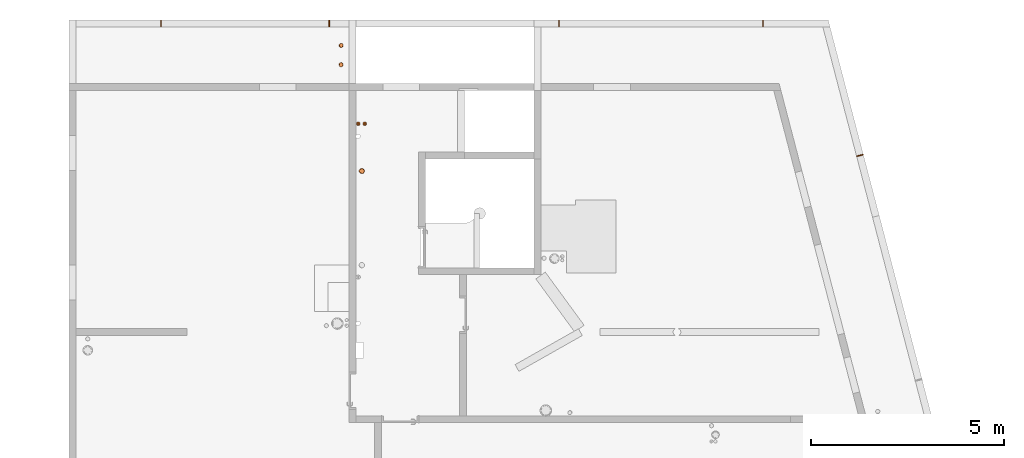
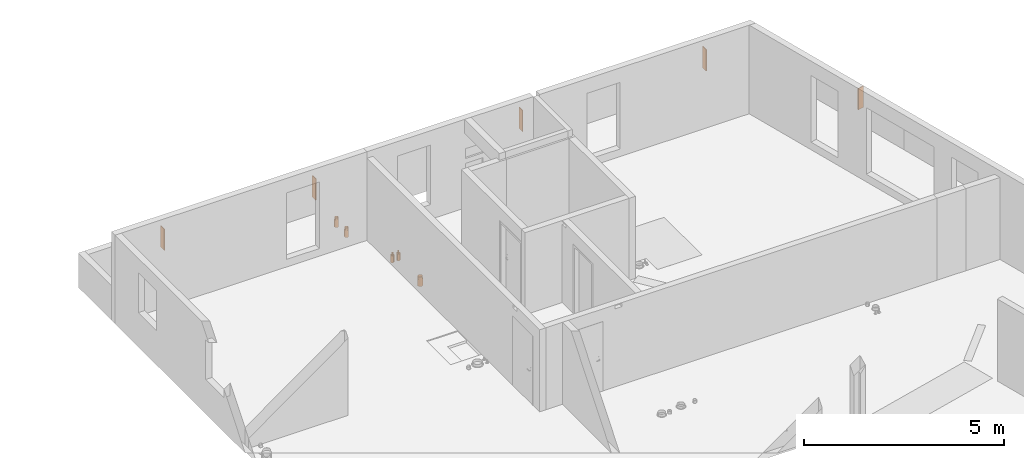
# One storey, part 28 of 28: 10 proxies.
"""IFC2X3 building model written with IfcOpenShell, lengths in centimetres."""

from ifc_helpers import new_model, entity, si_unit, converted_unit, derived_unit, direction, frame, frame_2d, origin, place, context, subcontext, project, spatial, rectangle, circle, hollow_circle, extrude, source, transform, mapped, material, type_object, type_shapes, element, save


model = new_model("IFC2X3")

# Units and contexts
model_context = context("Model", 3, precision=0.001, world=origin(), true_north=direction((6.12303176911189e-17, 1.0)))
body_context = subcontext(model_context, "Body", "Model", "MODEL_VIEW")
ifc_project = project(units=[si_unit("LENGTHUNIT", "METRE", prefix="CENTI"), si_unit("AREAUNIT", "SQUARE_METRE"), si_unit("VOLUMEUNIT", "CUBIC_METRE"), converted_unit("PLANEANGLEUNIT", "DEGREE", entity("IfcRatioMeasure", 0.0174532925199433), si_unit("PLANEANGLEUNIT", "RADIAN"), dimensions=[0, 0, 0, 0, 0, 0, 0]), si_unit("MASSUNIT", "GRAM", prefix="KILO"), derived_unit("MASSDENSITYUNIT", [(si_unit("MASSUNIT", "GRAM", prefix="KILO"), 1), (si_unit("LENGTHUNIT", "METRE"), -3)]), si_unit("TIMEUNIT", "SECOND"), si_unit("FREQUENCYUNIT", "HERTZ"), si_unit("THERMODYNAMICTEMPERATUREUNIT", "DEGREE_CELSIUS"), derived_unit("THERMALTRANSMITTANCEUNIT", [(si_unit("MASSUNIT", "GRAM", prefix="KILO"), 1), (si_unit("THERMODYNAMICTEMPERATUREUNIT", "KELVIN"), -1), (si_unit("TIMEUNIT", "SECOND"), -3)]), derived_unit("VOLUMETRICFLOWRATEUNIT", [(si_unit("LENGTHUNIT", "METRE"), 3), (si_unit("TIMEUNIT", "SECOND"), -1)]), si_unit("ELECTRICCURRENTUNIT", "AMPERE"), si_unit("ELECTRICVOLTAGEUNIT", "VOLT"), si_unit("POWERUNIT", "WATT"), si_unit("FORCEUNIT", "NEWTON"), si_unit("ILLUMINANCEUNIT", "LUX"), si_unit("LUMINOUSFLUXUNIT", "LUMEN"), si_unit("LUMINOUSINTENSITYUNIT", "CANDELA"), derived_unit("USERDEFINED", [(si_unit("MASSUNIT", "GRAM", prefix="KILO"), -1), (si_unit("LENGTHUNIT", "METRE"), -2), (si_unit("TIMEUNIT", "SECOND"), 3), (si_unit("LUMINOUSFLUXUNIT", "LUMEN"), 1)]), derived_unit("LINEARVELOCITYUNIT", [(si_unit("LENGTHUNIT", "METRE"), 1), (si_unit("TIMEUNIT", "SECOND"), -1)]), si_unit("PRESSUREUNIT", "PASCAL"), derived_unit("USERDEFINED", [(si_unit("LENGTHUNIT", "METRE"), -2), (si_unit("MASSUNIT", "GRAM", prefix="KILO"), 1), (si_unit("TIMEUNIT", "SECOND"), -2)])], contexts=[model_context])

# Site, building, storey
site_placement = place(None, origin())
site = spatial("IfcSite", under=ifc_project, at=site_placement, Name="Default", CompositionType="ELEMENT")
building_placement = place(site_placement, origin())
building = spatial("IfcBuilding", under=site, at=building_placement, Name="CAGE 03", CompositionType="ELEMENT")
storey_placement = place(building_placement, frame((0.0, 0.0, 1420.0)))
storey = spatial("IfcBuildingStorey", under=building, at=storey_placement, Name="R+5", CompositionType="ELEMENT", Elevation=1420.0)

# Proxies
ifc_material_1 = material(Name="BBGO_Résa")
building_element_proxy_type_1 = type_object("IfcBuildingElementProxyType", Name="J.F.", PredefinedType="NOTDEFINED", material=ifc_material_1)
shared_shape_1 = source(origin(), body_context, "Body", "SweptSolid", [
    extrude(rectangle(XDim=1.99999999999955, YDim=18.0000000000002, at=frame_2d((-1.73261405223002e-12, 0.0), x_axis=(1.0, 0.0))), frame((9522.36582014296, 5284.6606660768, 1460.0)), (0.0, 0.0, 1.0), 64.9999999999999),
])
type_shapes(building_element_proxy_type_1, [shared_shape_1])
proxy_1_placement = place(storey_placement, frame((0.0, 0.0, -1420.0)))
element("IfcBuildingElementProxy", 1, at=proxy_1_placement, inside=storey, type_object=building_element_proxy_type_1, material=ifc_material_1, Name="BBGO-Résa rect et circ:J.F.", ObjectType="J.F.", context=body_context, shape_type="MappedRepresentation", body=[
    mapped(shared_shape_1, transform((0.0, 0.0, 0.0), scale=1.0)),
])
building_element_proxy_type_2 = type_object("IfcBuildingElementProxyType", Name="J.F.", PredefinedType="NOTDEFINED", material=ifc_material_1)
shared_shape_2 = source(origin(), body_context, "Body", "SweptSolid", [
    extrude(rectangle(XDim=1.99999999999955, YDim=18.0000000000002, at=frame_2d((0.0, -8.65973959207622e-13), x_axis=(1.0, 0.0))), frame((11084.365820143, 5284.66066607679, 1460.0)), (0.0, 0.0, 1.0), 64.9999999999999),
])
type_shapes(building_element_proxy_type_2, [shared_shape_2])
proxy_2_placement = place(storey_placement, frame((0.0, 0.0, -1420.0)))
element("IfcBuildingElementProxy", 2, at=proxy_2_placement, inside=storey, type_object=building_element_proxy_type_2, material=ifc_material_1, Name="BBGO-Résa rect et circ:J.F.", ObjectType="J.F.", context=body_context, shape_type="MappedRepresentation", body=[
    mapped(shared_shape_2, transform((0.0, 0.0, 0.0), scale=1.0)),
])
building_element_proxy_type_3 = type_object("IfcBuildingElementProxyType", Name="J.F.", PredefinedType="NOTDEFINED", material=ifc_material_1)
shared_shape_3 = source(origin(), body_context, "Body", "SweptSolid", [
    extrude(rectangle(XDim=2.00000000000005, YDim=18.0000000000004, at=frame_2d((-4.37760938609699e-13, -1.67688085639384e-12), x_axis=(1.0, 0.0))), frame((11336.2921244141, 4942.24723955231, 1460.0), z_axis=(0.0, 0.0, 1.0), x_axis=(0.252679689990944, -0.967549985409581, 0.0)), (0.0, 0.0, 1.0), 64.9999999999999),
])
type_shapes(building_element_proxy_type_3, [shared_shape_3])
proxy_3_placement = place(storey_placement, frame((0.0, 0.0, -1420.0)))
element("IfcBuildingElementProxy", 3, at=proxy_3_placement, inside=storey, type_object=building_element_proxy_type_3, material=ifc_material_1, Name="BBGO-Résa rect et circ:J.F.", ObjectType="J.F.", context=body_context, shape_type="MappedRepresentation", body=[
    mapped(shared_shape_3, transform((0.0, 0.0, 0.0), scale=1.0)),
])
ifc_material_2 = material(Name="Conduit EP")
building_element_proxy_type_4 = type_object("IfcBuildingElementProxyType", Name="EP 101", PredefinedType="NOTDEFINED", material=ifc_material_2)
shared_shape_4 = source(origin(), body_context, "Body", "SweptSolid", [
    extrude(circle(Radius=5.5, at=frame_2d((0.0, -8.88549515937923e-15), x_axis=(1.0, 0.0))), frame((0.0, 0.0, -21.0)), (0.0, 0.0, 1.0), 21.0),
    extrude(hollow_circle(Radius=5.0, WallThickness=0.25, at=frame_2d((0.0, -8.07772287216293e-15), x_axis=(1.0, 0.0))), frame((0.0, 0.0, -21.0)), (0.0, 0.0, 1.0), 28.5),
])
type_shapes(building_element_proxy_type_4, [shared_shape_4])
for number, where, name in (
    (4, (9989.87117296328, 5227.66066606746, 0.0), "Galette - Résa - PVC4:EP 101"),
    (5, (9989.87118139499, 5177.66066606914, 0.0), "Galette - Résa - PVC4:EP 101"),
):
    element("IfcBuildingElementProxy", number, at=place(storey_placement, frame(where)), inside=storey, type_object=building_element_proxy_type_4, material=ifc_material_2, Name=name, ObjectType="EP 101", context=body_context, shape_type="MappedRepresentation", body=[
        mapped(shared_shape_4, transform((0.0, 0.0, 0.0), scale=1.0)),
    ])
building_element_proxy_type_5 = type_object("IfcBuildingElementProxyType", Name="EP 126", PredefinedType="NOTDEFINED", material=ifc_material_2)
shared_shape_5 = source(origin(), body_context, "Body", "SweptSolid", [
    extrude(circle(Radius=7.0, at=frame_2d((0.0, -1.13088120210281e-14), x_axis=(1.0, 0.0))), frame((0.0, 0.0, -21.0)), (0.0, 0.0, 1.0), 21.0),
    extrude(hollow_circle(Radius=6.25, WallThickness=0.25, at=frame_2d((0.0, -1.00971535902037e-14), x_axis=(1.0, 0.0))), frame((0.0, 0.0, -21.0)), (0.0, 0.0, 1.0), 28.5),
])
type_shapes(building_element_proxy_type_5, [shared_shape_5])
proxy_4_placement = place(storey_placement, frame((10043.549740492, 4901.77311678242, 0.0)))
element("IfcBuildingElementProxy", 6, at=proxy_4_placement, inside=storey, type_object=building_element_proxy_type_5, material=ifc_material_2, Name="Galette - Résa - PVC4:EP 126", ObjectType="EP 126", context=body_context, shape_type="MappedRepresentation", body=[
    mapped(shared_shape_5, transform((0.0, 0.0, 0.0), scale=1.0)),
])
ifc_material_3 = material(Name="Circuit CHF Aller")
building_element_proxy_type_6 = type_object("IfcBuildingElementProxyType", Name="CHF Aller 41", PredefinedType="NOTDEFINED", material=ifc_material_3)
shared_shape_6 = source(origin(), body_context, "Body", "SweptSolid", [
    extrude(circle(Radius=5.0, at=frame_2d((0.0, -8.07772287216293e-15), x_axis=(1.0, 0.0))), frame((0.0, 0.0, -21.0)), (0.0, 0.0, 1.0), 21.0),
    extrude(hollow_circle(Radius=2.0, WallThickness=0.4, at=frame_2d((0.0, -3.23108914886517e-15), x_axis=(1.0, 0.0))), frame((0.0, 0.0, -21.0)), (0.0, 0.0, 1.0), 28.5),
])
type_shapes(building_element_proxy_type_6, [shared_shape_6])
proxy_5_placement = place(storey_placement, frame((10034.3670007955, 5024.39167684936, 0.0)))
element("IfcBuildingElementProxy", 7, at=proxy_5_placement, inside=storey, type_object=building_element_proxy_type_6, material=ifc_material_3, Name="Galette - Résa - PVC4:CHF Aller 41", ObjectType="CHF Aller 41", context=body_context, shape_type="MappedRepresentation", body=[
    mapped(shared_shape_6, transform((0.0, 0.0, 0.0), scale=1.0)),
])
ifc_material_4 = material(Name="Circuit CHF Retour")
building_element_proxy_type_7 = type_object("IfcBuildingElementProxyType", Name="CHF Retour 43", PredefinedType="NOTDEFINED", material=ifc_material_4)
shared_shape_7 = source(origin(), body_context, "Body", "SweptSolid", [
    extrude(circle(Radius=5.0, at=frame_2d((0.0, -8.07772287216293e-15), x_axis=(1.0, 0.0))), frame((0.0, 0.0, -21.0)), (0.0, 0.0, 1.0), 21.0),
    extrude(hollow_circle(Radius=2.0, WallThickness=0.4, at=frame_2d((0.0, -3.23108914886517e-15), x_axis=(1.0, 0.0))), frame((0.0, 0.0, -21.0)), (0.0, 0.0, 1.0), 28.5),
])
type_shapes(building_element_proxy_type_7, [shared_shape_7])
proxy_6_placement = place(storey_placement, frame((10051.3670007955, 5024.39167684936, 0.0)))
element("IfcBuildingElementProxy", 8, at=proxy_6_placement, inside=storey, type_object=building_element_proxy_type_7, material=ifc_material_4, Name="Galette - Résa - PVC4:CHF Retour 43", ObjectType="CHF Retour 43", context=body_context, shape_type="MappedRepresentation", body=[
    mapped(shared_shape_7, transform((0.0, 0.0, 0.0), scale=1.0)),
])
building_element_proxy_type_8 = type_object("IfcBuildingElementProxyType", Name="J.F.", PredefinedType="NOTDEFINED", material=ifc_material_1)
shared_shape_8 = source(origin(), body_context, "Body", "SweptSolid", [
    extrude(rectangle(XDim=1.99999999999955, YDim=18.0000000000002, at=frame_2d((0.0, -8.65973959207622e-13), x_axis=(1.0, 0.0))), frame((9959.36582014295, 5284.66066607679, 1460.0)), (0.0, 0.0, 1.0), 64.9999999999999),
])
type_shapes(building_element_proxy_type_8, [shared_shape_8])
proxy_7_placement = place(storey_placement, frame((0.0, 0.0, -1420.0)))
element("IfcBuildingElementProxy", 9, at=proxy_7_placement, inside=storey, type_object=building_element_proxy_type_8, material=ifc_material_1, Name="BBGO-Résa rect et circ:J.F.", ObjectType="J.F.", context=body_context, shape_type="MappedRepresentation", body=[
    mapped(shared_shape_8, transform((0.0, 0.0, 0.0), scale=1.0)),
])
building_element_proxy_type_9 = type_object("IfcBuildingElementProxyType", Name="J.F.", PredefinedType="NOTDEFINED", material=ifc_material_1)
shared_shape_9 = source(origin(), body_context, "Body", "SweptSolid", [
    extrude(rectangle(XDim=1.99999999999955, YDim=18.0000000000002, at=frame_2d((0.0, -8.65973959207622e-13), x_axis=(1.0, 0.0))), frame((10555.365820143, 5284.6606660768, 1460.0)), (0.0, 0.0, 1.0), 64.9999999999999),
])
type_shapes(building_element_proxy_type_9, [shared_shape_9])
proxy_8_placement = place(storey_placement, frame((0.0, 0.0, -1420.0)))
element("IfcBuildingElementProxy", 10, at=proxy_8_placement, inside=storey, type_object=building_element_proxy_type_9, material=ifc_material_1, Name="BBGO-Résa rect et circ:J.F.", ObjectType="J.F.", context=body_context, shape_type="MappedRepresentation", body=[
    mapped(shared_shape_9, transform((0.0, 0.0, 0.0), scale=1.0)),
])

save(model, "model.ifc")
